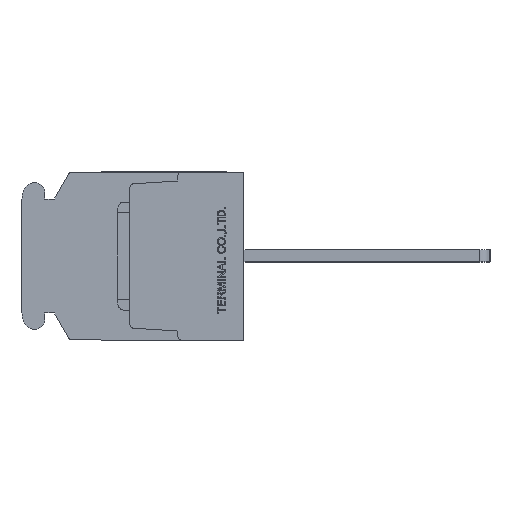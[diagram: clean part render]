
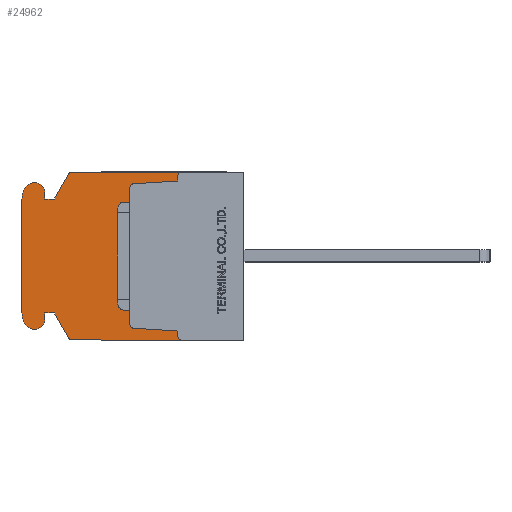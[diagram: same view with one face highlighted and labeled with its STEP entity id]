
A CAD part, left-side view. The second image highlights one B-rep face of the part: STEP entity #24962.
In plain terms, the highlighted planar face has unit normal (-1, 0, 0).
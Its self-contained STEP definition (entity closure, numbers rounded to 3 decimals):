
#470=CIRCLE('',#25371,0.3);
#471=CIRCLE('',#25375,0.3);
#472=CIRCLE('',#25377,0.3);
#473=CIRCLE('',#25381,0.3);
#966=CIRCLE('',#26831,0.3);
#967=CIRCLE('',#26832,0.8);
#968=CIRCLE('',#26833,1.);
#969=CIRCLE('',#26834,2.);
#970=CIRCLE('',#26835,2.);
#971=CIRCLE('',#26836,1.);
#972=CIRCLE('',#26837,0.8);
#973=CIRCLE('',#26838,0.3);
#1360=VERTEX_POINT('',#32572);
#1361=VERTEX_POINT('',#32573);
#1714=VERTEX_POINT('',#34094);
#1715=VERTEX_POINT('',#34098);
#1716=VERTEX_POINT('',#34102);
#1717=VERTEX_POINT('',#34106);
#1718=VERTEX_POINT('',#34110);
#1719=VERTEX_POINT('',#34111);
#1720=VERTEX_POINT('',#34116);
#1721=VERTEX_POINT('',#34120);
#3079=VERTEX_POINT('',#38280);
#3114=VERTEX_POINT('',#38387);
#3480=VERTEX_POINT('',#39538);
#3481=VERTEX_POINT('',#39540);
#3482=VERTEX_POINT('',#39542);
#3483=VERTEX_POINT('',#39544);
#3484=VERTEX_POINT('',#39546);
#3485=VERTEX_POINT('',#39548);
#3486=VERTEX_POINT('',#39550);
#3487=VERTEX_POINT('',#39552);
#3488=VERTEX_POINT('',#39554);
#3489=VERTEX_POINT('',#39556);
#3490=VERTEX_POINT('',#39558);
#3491=VERTEX_POINT('',#39560);
#3492=VERTEX_POINT('',#39562);
#3493=VERTEX_POINT('',#39564);
#3494=VERTEX_POINT('',#39566);
#3495=VERTEX_POINT('',#39568);
#3888=VECTOR('',#27085,1.);
#4297=VECTOR('',#27641,1.);
#4299=VECTOR('',#27644,1.);
#4304=VECTOR('',#27658,1.);
#4306=VECTOR('',#27661,1.);
#5699=VECTOR('',#30844,1.);
#5736=VECTOR('',#30939,1.);
#6194=VECTOR('',#31780,1.);
#6195=VECTOR('',#31781,1.);
#6196=VECTOR('',#31782,1.);
#6197=VECTOR('',#31785,1.);
#6198=VECTOR('',#31790,1.);
#6199=VECTOR('',#31795,1.);
#6200=VECTOR('',#31798,1.);
#6201=VECTOR('',#31799,1.);
#6202=VECTOR('',#31800,1.);
#6652=LINE('',#32571,#3888);
#7061=LINE('',#34097,#4297);
#7063=LINE('',#34101,#4299);
#7068=LINE('',#34115,#4304);
#7070=LINE('',#34119,#4306);
#8463=LINE('',#38281,#5699);
#8500=LINE('',#38386,#5736);
#8958=LINE('',#39539,#6194);
#8959=LINE('',#39541,#6195);
#8960=LINE('',#39543,#6196);
#8961=LINE('',#39547,#6197);
#8962=LINE('',#39553,#6198);
#8963=LINE('',#39559,#6199);
#8964=LINE('',#39563,#6200);
#8965=LINE('',#39565,#6201);
#8966=LINE('',#39567,#6202);
#9416=EDGE_CURVE('',#1360,#1361,#6652,.T.);
#9934=EDGE_CURVE('',#1714,#1360,#470,.T.);
#9936=EDGE_CURVE('',#1715,#1714,#7061,.T.);
#9938=EDGE_CURVE('',#1716,#1715,#7063,.T.);
#9940=EDGE_CURVE('',#1717,#1716,#471,.T.);
#9942=EDGE_CURVE('',#1718,#1719,#472,.T.);
#9945=EDGE_CURVE('',#1720,#1718,#7068,.T.);
#9947=EDGE_CURVE('',#1721,#1720,#7070,.T.);
#9949=EDGE_CURVE('',#1361,#1721,#473,.T.);
#11919=EDGE_CURVE('',#3079,#1719,#8463,.T.);
#11972=EDGE_CURVE('',#1717,#3114,#8500,.T.);
#12604=EDGE_CURVE('',#3480,#3079,#966,.T.);
#12605=EDGE_CURVE('',#3481,#3480,#8958,.T.);
#12606=EDGE_CURVE('',#3482,#3481,#8959,.T.);
#12607=EDGE_CURVE('',#3483,#3482,#8960,.T.);
#12608=EDGE_CURVE('',#3484,#3483,#967,.T.);
#12609=EDGE_CURVE('',#3485,#3484,#8961,.T.);
#12610=EDGE_CURVE('',#3486,#3485,#968,.T.);
#12611=EDGE_CURVE('',#3487,#3486,#969,.T.);
#12612=EDGE_CURVE('',#3488,#3487,#8962,.T.);
#12613=EDGE_CURVE('',#3489,#3488,#970,.T.);
#12614=EDGE_CURVE('',#3490,#3489,#971,.T.);
#12615=EDGE_CURVE('',#3491,#3490,#8963,.T.);
#12616=EDGE_CURVE('',#3492,#3491,#972,.T.);
#12617=EDGE_CURVE('',#3493,#3492,#8964,.T.);
#12618=EDGE_CURVE('',#3494,#3493,#8965,.T.);
#12619=EDGE_CURVE('',#3495,#3494,#8966,.T.);
#12620=EDGE_CURVE('',#3114,#3495,#973,.T.);
#19541=ORIENTED_EDGE('',*,*,#9942,.T.);
#19542=ORIENTED_EDGE('',*,*,#11919,.F.);
#19543=ORIENTED_EDGE('',*,*,#12604,.F.);
#19544=ORIENTED_EDGE('',*,*,#12605,.F.);
#19545=ORIENTED_EDGE('',*,*,#12606,.F.);
#19546=ORIENTED_EDGE('',*,*,#12607,.F.);
#19547=ORIENTED_EDGE('',*,*,#12608,.F.);
#19548=ORIENTED_EDGE('',*,*,#12609,.F.);
#19549=ORIENTED_EDGE('',*,*,#12610,.F.);
#19550=ORIENTED_EDGE('',*,*,#12611,.F.);
#19551=ORIENTED_EDGE('',*,*,#12612,.F.);
#19552=ORIENTED_EDGE('',*,*,#12613,.F.);
#19553=ORIENTED_EDGE('',*,*,#12614,.F.);
#19554=ORIENTED_EDGE('',*,*,#12615,.F.);
#19555=ORIENTED_EDGE('',*,*,#12616,.F.);
#19556=ORIENTED_EDGE('',*,*,#12617,.F.);
#19557=ORIENTED_EDGE('',*,*,#12618,.F.);
#19558=ORIENTED_EDGE('',*,*,#12619,.F.);
#19559=ORIENTED_EDGE('',*,*,#12620,.F.);
#19560=ORIENTED_EDGE('',*,*,#11972,.F.);
#19561=ORIENTED_EDGE('',*,*,#9940,.T.);
#19562=ORIENTED_EDGE('',*,*,#9938,.T.);
#19563=ORIENTED_EDGE('',*,*,#9936,.T.);
#19564=ORIENTED_EDGE('',*,*,#9934,.T.);
#19565=ORIENTED_EDGE('',*,*,#9416,.T.);
#19566=ORIENTED_EDGE('',*,*,#9949,.T.);
#19567=ORIENTED_EDGE('',*,*,#9947,.T.);
#19568=ORIENTED_EDGE('',*,*,#9945,.T.);
#22034=EDGE_LOOP('',(#19541,#19542,#19543,#19544,#19545,#19546,#19547,#19548,
#19549,#19550,#19551,#19552,#19553,#19554,#19555,#19556,#19557,#19558,#19559,
#19560,#19561,#19562,#19563,#19564,#19565,#19566,#19567,#19568));
#23552=FACE_BOUND('',#22034,.T.);
#24962=ADVANCED_FACE('',(#23552),#42069,.F.);
#25371=AXIS2_PLACEMENT_3D('',#34093,#27637,#27638);
#25375=AXIS2_PLACEMENT_3D('',#34105,#27648,#27649);
#25377=AXIS2_PLACEMENT_3D('',#34109,#27653,#27654);
#25381=AXIS2_PLACEMENT_3D('',#34123,#27665,#27666);
#26830=AXIS2_PLACEMENT_3D('',#39536,#31777,$);
#26831=AXIS2_PLACEMENT_3D('',#39537,#31778,#31779);
#26832=AXIS2_PLACEMENT_3D('',#39545,#31783,#31784);
#26833=AXIS2_PLACEMENT_3D('',#39549,#31786,#31787);
#26834=AXIS2_PLACEMENT_3D('',#39551,#31788,#31789);
#26835=AXIS2_PLACEMENT_3D('',#39555,#31791,#31792);
#26836=AXIS2_PLACEMENT_3D('',#39557,#31793,#31794);
#26837=AXIS2_PLACEMENT_3D('',#39561,#31796,#31797);
#26838=AXIS2_PLACEMENT_3D('',#39569,#31801,#31802);
#27085=DIRECTION('',(0.,0.,1.));
#27637=DIRECTION('',(1.,0.,0.));
#27638=DIRECTION('',(0.,0.,-0.3));
#27641=DIRECTION('',(0.,0.998,0.062));
#27644=DIRECTION('',(0.,0.,1.));
#27648=DIRECTION('',(1.,0.,0.));
#27649=DIRECTION('',(0.,0.,-0.3));
#27653=DIRECTION('',(1.,0.,0.));
#27654=DIRECTION('',(0.,0.,-0.3));
#27658=DIRECTION('',(0.,0.,1.));
#27661=DIRECTION('',(0.,-0.998,0.062));
#27665=DIRECTION('',(1.,0.,0.));
#27666=DIRECTION('',(0.,0.,-0.3));
#30844=DIRECTION('',(0.,-1.,0.));
#30939=DIRECTION('',(0.,1.,0.));
#31777=DIRECTION('',(1.,0.,0.));
#31778=DIRECTION('',(1.,0.,0.));
#31779=DIRECTION('',(0.,0.,-0.3));
#31780=DIRECTION('',(0.,-0.5,0.866));
#31781=DIRECTION('',(0.,-1.,0.));
#31782=DIRECTION('',(0.,0.,-1.));
#31783=DIRECTION('',(1.,0.,0.));
#31784=DIRECTION('',(0.,0.,-0.8));
#31785=DIRECTION('',(0.,-1.,0.));
#31786=DIRECTION('',(1.,0.,0.));
#31787=DIRECTION('',(0.,0.,-1.));
#31788=DIRECTION('',(1.,0.,0.));
#31789=DIRECTION('',(0.,0.,-2.));
#31790=DIRECTION('',(0.,0.,1.));
#31791=DIRECTION('',(1.,0.,0.));
#31792=DIRECTION('',(0.,0.,-2.));
#31793=DIRECTION('',(1.,0.,0.));
#31794=DIRECTION('',(0.,0.,-1.));
#31795=DIRECTION('',(0.,1.,0.));
#31796=DIRECTION('',(1.,0.,0.));
#31797=DIRECTION('',(0.,0.,-0.8));
#31798=DIRECTION('',(0.,0.,-1.));
#31799=DIRECTION('',(0.,1.,0.));
#31800=DIRECTION('',(0.,0.5,0.866));
#31801=DIRECTION('',(1.,0.,0.));
#31802=DIRECTION('',(0.,0.,-0.3));
#32571=CARTESIAN_POINT('',(8.15,9.5,0.));
#32572=CARTESIAN_POINT('',(8.15,9.5,-5.718));
#32573=CARTESIAN_POINT('',(8.15,9.5,5.718));
#34093=CARTESIAN_POINT('',(8.15,9.2,-5.718));
#34094=CARTESIAN_POINT('',(8.15,9.219,-6.018));
#34097=CARTESIAN_POINT('',(8.15,8.522,-6.061));
#34098=CARTESIAN_POINT('',(8.15,5.5,-6.25));
#34101=CARTESIAN_POINT('',(8.15,5.5,-3.237));
#34102=CARTESIAN_POINT('',(8.15,5.5,-6.7));
#34105=CARTESIAN_POINT('',(8.15,5.2,-6.7));
#34106=CARTESIAN_POINT('',(8.15,5.2,-7.));
#34109=CARTESIAN_POINT('',(8.15,5.2,6.7));
#34110=CARTESIAN_POINT('',(8.15,5.5,6.7));
#34111=CARTESIAN_POINT('',(8.15,5.2,7.));
#34115=CARTESIAN_POINT('',(8.15,5.5,3.238));
#34116=CARTESIAN_POINT('',(8.15,5.5,6.25));
#34119=CARTESIAN_POINT('',(8.15,8.522,6.061));
#34120=CARTESIAN_POINT('',(8.15,9.219,6.018));
#34123=CARTESIAN_POINT('',(8.15,9.2,5.718));
#38280=CARTESIAN_POINT('',(8.15,14.327,7.));
#38281=CARTESIAN_POINT('',(8.15,14.327,7.));
#38386=CARTESIAN_POINT('',(8.15,0.,-7.));
#38387=CARTESIAN_POINT('',(8.15,14.327,-7.));
#39536=CARTESIAN_POINT('',(8.15,9.311,0.));
#39537=CARTESIAN_POINT('',(8.15,14.327,6.7));
#39538=CARTESIAN_POINT('',(8.15,14.587,6.85));
#39539=CARTESIAN_POINT('',(8.15,15.8,4.75));
#39540=CARTESIAN_POINT('',(8.15,15.8,4.75));
#39541=CARTESIAN_POINT('',(8.15,16.6,4.75));
#39542=CARTESIAN_POINT('',(8.15,16.6,4.75));
#39543=CARTESIAN_POINT('',(8.15,16.6,5.3));
#39544=CARTESIAN_POINT('',(8.15,16.6,5.3));
#39545=CARTESIAN_POINT('',(8.15,17.4,5.3));
#39546=CARTESIAN_POINT('',(8.15,17.4,6.1));
#39547=CARTESIAN_POINT('',(8.15,17.437,6.1));
#39548=CARTESIAN_POINT('',(8.15,17.437,6.1));
#39549=CARTESIAN_POINT('',(8.15,17.437,5.1));
#39550=CARTESIAN_POINT('',(8.15,18.373,5.45));
#39551=CARTESIAN_POINT('',(8.15,16.5,4.75));
#39552=CARTESIAN_POINT('',(8.15,18.5,4.75));
#39553=CARTESIAN_POINT('',(8.15,18.5,-4.75));
#39554=CARTESIAN_POINT('',(8.15,18.5,-4.75));
#39555=CARTESIAN_POINT('',(8.15,16.5,-4.75));
#39556=CARTESIAN_POINT('',(8.15,18.373,-5.45));
#39557=CARTESIAN_POINT('',(8.15,17.437,-5.1));
#39558=CARTESIAN_POINT('',(8.15,17.437,-6.1));
#39559=CARTESIAN_POINT('',(8.15,17.4,-6.1));
#39560=CARTESIAN_POINT('',(8.15,17.4,-6.1));
#39561=CARTESIAN_POINT('',(8.15,17.4,-5.3));
#39562=CARTESIAN_POINT('',(8.15,16.6,-5.3));
#39563=CARTESIAN_POINT('',(8.15,16.6,-4.75));
#39564=CARTESIAN_POINT('',(8.15,16.6,-4.75));
#39565=CARTESIAN_POINT('',(8.15,15.8,-4.75));
#39566=CARTESIAN_POINT('',(8.15,15.8,-4.75));
#39567=CARTESIAN_POINT('',(8.15,14.587,-6.85));
#39568=CARTESIAN_POINT('',(8.15,14.587,-6.85));
#39569=CARTESIAN_POINT('',(8.15,14.327,-6.7));
#42069=PLANE('',#26830);
